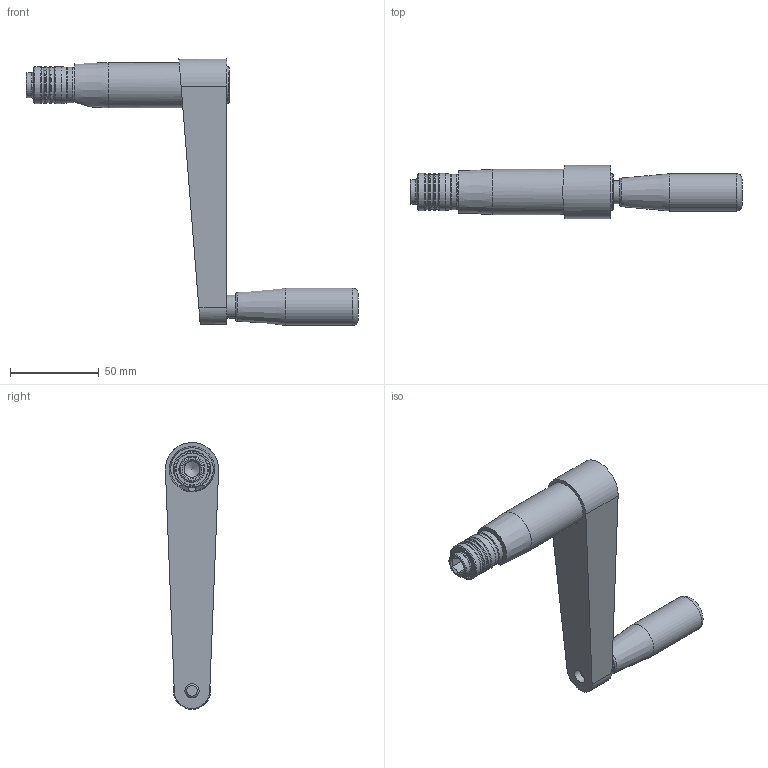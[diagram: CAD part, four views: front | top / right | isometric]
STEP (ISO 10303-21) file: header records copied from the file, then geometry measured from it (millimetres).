
FILE_DESCRIPTION(/* description */ ('Unknown'),/* implementation_level */ '2;1');
FILE_NAME(/* name */ '113.00105_00-Normal',/* time_stamp */ '2024-07-02T15:32:36+02:00',/* author */ ('Unknown'),/* organization */ ('Unknown'),/* preprocessor_version */ 'ST-DEVELOPER v18.104',/* originating_system */ 'Solid Edge',/* authorisation */ 'Unknown');
FILE_SCHEMA (('AUTOMOTIVE_DESIGN {1 0 10303 214 3 1 1}'));
Length unit declared in the file: millimetre
Products named in the file (14): 113.00105; 125.00301; 126.00013; 125.00302; 127.00014; 142.00077; 142.00297; 142.00298; 125.00053; 127.00621; 142.00278; 128.00001; 142.00244; Kurbelgriff
Assembly tree (14 placements, depth 2):
  113.00105
    125.00301
    126.00013
    125.00302
    127.00014
    142.00077
    142.00297
    142.00298
    125.00053
    127.00621
    142.00278  x2
    128.00001
    142.00244
    Kurbelgriff
Bounding box: 187.25 x 29.98 x 150.47 mm (x, y, z)
Volume: 130789.1 mm3; surface area: 46317.5 mm2
Topology: 14 solids, 14 shells, 201 faces, 463 edges, 292 vertices
Faces by surface type: plane 91, cylinder 48, cone 25, torus 24, bspline 11, sphere 2
Full cylindrical faces by diameter (mm): 3.1 x2, 4 x2, 4.2 x1, 4.917 x2, 6 x1, 8 x2, 9 x1, 12.8 x1, 13 x1, 14 x3, 15 x2, 16 x1, 16.732 x1, 17 x1, 18 x1, 18.4 x1, 20 x1, 20.6 x1, 21 x5, 21.5 x1, 25.5 x1
Entity records: 8202 total; most frequent: CARTESIAN_POINT 3465, DIRECTION 886, ORIENTED_EDGE 718, AXIS2_PLACEMENT_3D 369, EDGE_CURVE 359, FACE_BOUND 300, EDGE_LOOP 297, VERTEX_POINT 265
